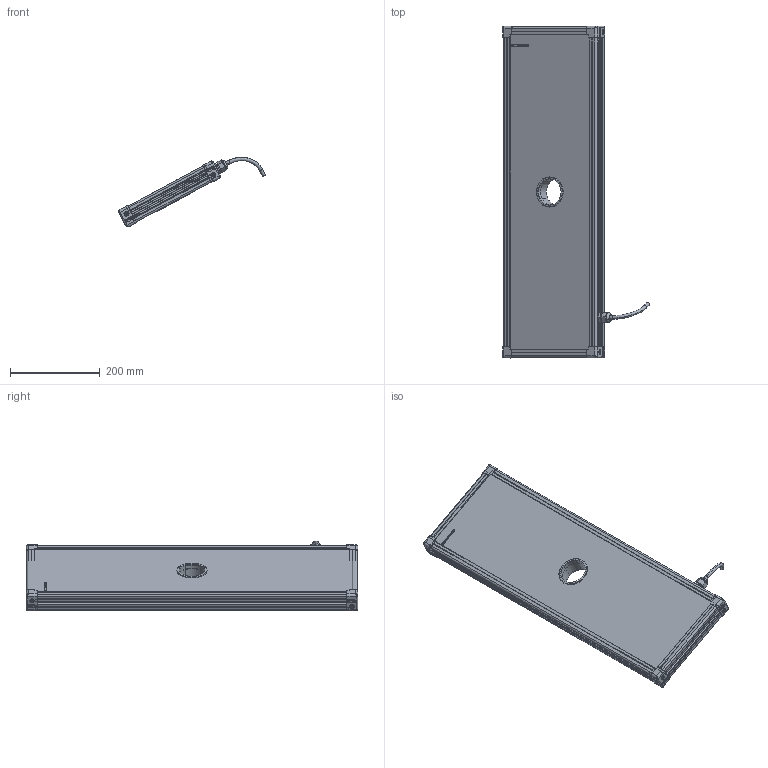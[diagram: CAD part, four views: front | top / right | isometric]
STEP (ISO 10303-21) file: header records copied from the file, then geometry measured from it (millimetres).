
FILE_DESCRIPTION (( 'STEP AP214' ), '1' );
FILE_NAME ('EFFI-BL-200-700-ZZZ-1M12P.STEP', '2021-06-21T08:00:12', ( '' ), ( '' ), 'SwSTEP 2.0', 'SolidWorks 2021', '' );
FILE_SCHEMA (( 'AUTOMOTIVE_DESIGN' ));
Length unit declared in the file: millimetre
Products named in the file (13): petite joue + vis; EFFI-BL-200-700-ZZZ-1M12P; M12 power_AVEC CABLE D8.1; 001037; 001038; 000629; profile Y_PERCE; profile X_PERCE; 000590; Pièce13^EFFI-BL-XXX-YYY-ZZZ (1 connecteur) M12POWER Ø58.5; petite joue; Assemblage Ø58.5
Assembly tree (19 placements, depth 3):
  EFFI-BL-200-700-ZZZ-1M12P
    profile X_PERCE  x2
    profile Y_PERCE
    profile Y_PERCE
    Pièce13^EFFI-BL-XXX-YYY-ZZZ (1 connecteur) M12POWER Ø58.5
    petite joue + vis  x4
      petite joue
      000629
    M12 power_AVEC CABLE D8.1
    Assemblage Ø58.5
      001037
      001038
      000590  x3
Bounding box: 326.69 x 739 x 155.49 mm (x, y, z)
Volume: 6002168.4 mm3; surface area: 673004.6 mm2
Topology: 22 solids, 25 shells, 3946 faces, 10510 edges, 6901 vertices
Faces by surface type: plane 2446, cylinder 718, bspline 591, cone 154, torus 29, sphere 8
Entity records: 55870 total; most frequent: CARTESIAN_POINT 22540, ORIENTED_EDGE 6994, DIRECTION 5720, EDGE_CURVE 3499, VECTOR 2454, LINE 2454, VERTEX_POINT 2302, AXIS2_PLACEMENT_3D 1633
